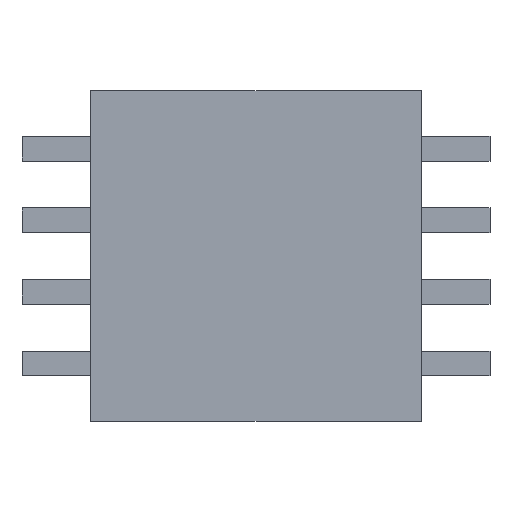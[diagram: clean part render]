
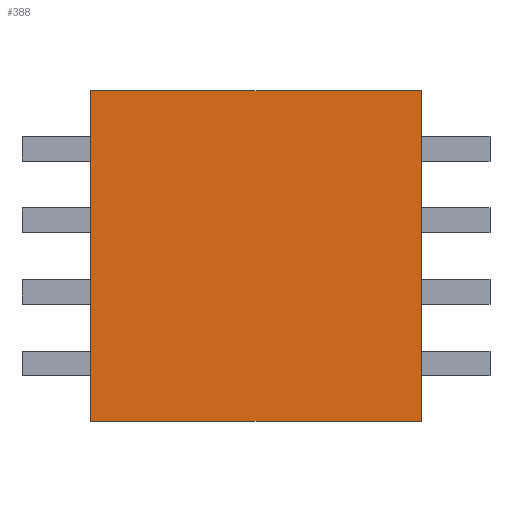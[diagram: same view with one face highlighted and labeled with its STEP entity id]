
A CAD part, top view. The second image highlights one B-rep face of the part: STEP entity #388.
In plain terms, the highlighted planar face has unit normal (0, 0, 1).
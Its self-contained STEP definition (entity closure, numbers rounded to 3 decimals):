
#74 = VERTEX_POINT('',#75);
#75 = CARTESIAN_POINT('',(-1.5,-1.5,1.2));
#82 = PLANE('',#83);
#83 = AXIS2_PLACEMENT_3D('',#84,#85,#86);
#84 = CARTESIAN_POINT('',(-1.5,-1.5,0.1));
#85 = DIRECTION('',(1.,0.,0.));
#86 = DIRECTION('',(0.,0.,1.));
#94 = PLANE('',#95);
#95 = AXIS2_PLACEMENT_3D('',#96,#97,#98);
#96 = CARTESIAN_POINT('',(-1.5,-1.5,0.1));
#97 = DIRECTION('',(0.,1.,0.));
#98 = DIRECTION('',(0.,0.,1.));
#135 = VERTEX_POINT('',#136);
#136 = CARTESIAN_POINT('',(-1.5,1.5,1.2));
#150 = PLANE('',#151);
#151 = AXIS2_PLACEMENT_3D('',#152,#153,#154);
#152 = CARTESIAN_POINT('',(-1.5,1.5,0.1));
#153 = DIRECTION('',(0.,1.,0.));
#154 = DIRECTION('',(0.,0.,1.));
#162 = EDGE_CURVE('',#74,#135,#163,.T.);
#163 = SURFACE_CURVE('',#164,(#168,#175),.PCURVE_S1.);
#164 = LINE('',#165,#166);
#165 = CARTESIAN_POINT('',(-1.5,-1.5,1.2));
#166 = VECTOR('',#167,1.);
#167 = DIRECTION('',(0.,1.,0.));
#168 = PCURVE('',#82,#169);
#169 = DEFINITIONAL_REPRESENTATION('',(#170),#174);
#170 = LINE('',#171,#172);
#171 = CARTESIAN_POINT('',(1.1,0.));
#172 = VECTOR('',#173,1.);
#173 = DIRECTION('',(0.,-1.));
#174 = ( GEOMETRIC_REPRESENTATION_CONTEXT(2) 
PARAMETRIC_REPRESENTATION_CONTEXT() REPRESENTATION_CONTEXT('2D SPACE',''
  ) );
#175 = PCURVE('',#176,#181);
#176 = PLANE('',#177);
#177 = AXIS2_PLACEMENT_3D('',#178,#179,#180);
#178 = CARTESIAN_POINT('',(-1.5,-1.5,1.2));
#179 = DIRECTION('',(0.,0.,1.));
#180 = DIRECTION('',(1.,0.,0.));
#181 = DEFINITIONAL_REPRESENTATION('',(#182),#186);
#182 = LINE('',#183,#184);
#183 = CARTESIAN_POINT('',(0.,0.));
#184 = VECTOR('',#185,1.);
#185 = DIRECTION('',(0.,1.));
#186 = ( GEOMETRIC_REPRESENTATION_CONTEXT(2) 
PARAMETRIC_REPRESENTATION_CONTEXT() REPRESENTATION_CONTEXT('2D SPACE',''
  ) );
#194 = VERTEX_POINT('',#195);
#195 = CARTESIAN_POINT('',(1.5,-1.5,1.2));
#202 = PLANE('',#203);
#203 = AXIS2_PLACEMENT_3D('',#204,#205,#206);
#204 = CARTESIAN_POINT('',(1.5,-1.5,0.1));
#205 = DIRECTION('',(1.,0.,0.));
#206 = DIRECTION('',(0.,0.,1.));
#245 = VERTEX_POINT('',#246);
#246 = CARTESIAN_POINT('',(1.5,1.5,1.2));
#267 = EDGE_CURVE('',#194,#245,#268,.T.);
#268 = SURFACE_CURVE('',#269,(#273,#280),.PCURVE_S1.);
#269 = LINE('',#270,#271);
#270 = CARTESIAN_POINT('',(1.5,-1.5,1.2));
#271 = VECTOR('',#272,1.);
#272 = DIRECTION('',(0.,1.,0.));
#273 = PCURVE('',#202,#274);
#274 = DEFINITIONAL_REPRESENTATION('',(#275),#279);
#275 = LINE('',#276,#277);
#276 = CARTESIAN_POINT('',(1.1,0.));
#277 = VECTOR('',#278,1.);
#278 = DIRECTION('',(0.,-1.));
#279 = ( GEOMETRIC_REPRESENTATION_CONTEXT(2) 
PARAMETRIC_REPRESENTATION_CONTEXT() REPRESENTATION_CONTEXT('2D SPACE',''
  ) );
#280 = PCURVE('',#176,#281);
#281 = DEFINITIONAL_REPRESENTATION('',(#282),#286);
#282 = LINE('',#283,#284);
#283 = CARTESIAN_POINT('',(3.,0.));
#284 = VECTOR('',#285,1.);
#285 = DIRECTION('',(0.,1.));
#286 = ( GEOMETRIC_REPRESENTATION_CONTEXT(2) 
PARAMETRIC_REPRESENTATION_CONTEXT() REPRESENTATION_CONTEXT('2D SPACE',''
  ) );
#313 = EDGE_CURVE('',#74,#194,#314,.T.);
#314 = SURFACE_CURVE('',#315,(#319,#326),.PCURVE_S1.);
#315 = LINE('',#316,#317);
#316 = CARTESIAN_POINT('',(-1.5,-1.5,1.2));
#317 = VECTOR('',#318,1.);
#318 = DIRECTION('',(1.,0.,0.));
#319 = PCURVE('',#94,#320);
#320 = DEFINITIONAL_REPRESENTATION('',(#321),#325);
#321 = LINE('',#322,#323);
#322 = CARTESIAN_POINT('',(1.1,0.));
#323 = VECTOR('',#324,1.);
#324 = DIRECTION('',(0.,1.));
#325 = ( GEOMETRIC_REPRESENTATION_CONTEXT(2) 
PARAMETRIC_REPRESENTATION_CONTEXT() REPRESENTATION_CONTEXT('2D SPACE',''
  ) );
#326 = PCURVE('',#176,#327);
#327 = DEFINITIONAL_REPRESENTATION('',(#328),#332);
#328 = LINE('',#329,#330);
#329 = CARTESIAN_POINT('',(0.,0.));
#330 = VECTOR('',#331,1.);
#331 = DIRECTION('',(1.,0.));
#332 = ( GEOMETRIC_REPRESENTATION_CONTEXT(2) 
PARAMETRIC_REPRESENTATION_CONTEXT() REPRESENTATION_CONTEXT('2D SPACE',''
  ) );
#360 = EDGE_CURVE('',#135,#245,#361,.T.);
#361 = SURFACE_CURVE('',#362,(#366,#373),.PCURVE_S1.);
#362 = LINE('',#363,#364);
#363 = CARTESIAN_POINT('',(-1.5,1.5,1.2));
#364 = VECTOR('',#365,1.);
#365 = DIRECTION('',(1.,0.,0.));
#366 = PCURVE('',#150,#367);
#367 = DEFINITIONAL_REPRESENTATION('',(#368),#372);
#368 = LINE('',#369,#370);
#369 = CARTESIAN_POINT('',(1.1,0.));
#370 = VECTOR('',#371,1.);
#371 = DIRECTION('',(0.,1.));
#372 = ( GEOMETRIC_REPRESENTATION_CONTEXT(2) 
PARAMETRIC_REPRESENTATION_CONTEXT() REPRESENTATION_CONTEXT('2D SPACE',''
  ) );
#373 = PCURVE('',#176,#374);
#374 = DEFINITIONAL_REPRESENTATION('',(#375),#379);
#375 = LINE('',#376,#377);
#376 = CARTESIAN_POINT('',(0.,3.));
#377 = VECTOR('',#378,1.);
#378 = DIRECTION('',(1.,0.));
#379 = ( GEOMETRIC_REPRESENTATION_CONTEXT(2) 
PARAMETRIC_REPRESENTATION_CONTEXT() REPRESENTATION_CONTEXT('2D SPACE',''
  ) );
#388 = ADVANCED_FACE('',(#389),#176,.T.);
#389 = FACE_BOUND('',#390,.T.);
#390 = EDGE_LOOP('',(#391,#392,#393,#394));
#391 = ORIENTED_EDGE('',*,*,#162,.F.);
#392 = ORIENTED_EDGE('',*,*,#313,.T.);
#393 = ORIENTED_EDGE('',*,*,#267,.T.);
#394 = ORIENTED_EDGE('',*,*,#360,.F.);
